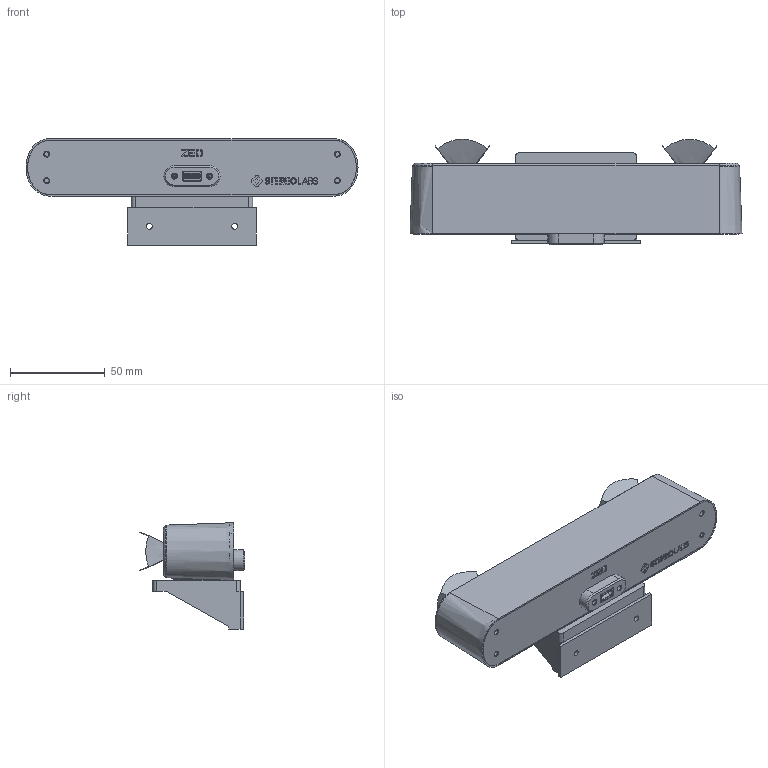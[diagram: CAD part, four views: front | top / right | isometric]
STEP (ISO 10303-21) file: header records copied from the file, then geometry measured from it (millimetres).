
FILE_DESCRIPTION(('Open CASCADE Model'),'2;1');
FILE_NAME('Open CASCADE Shape Model','2026-10-14T18:58:53',('Author'),( 'Open CASCADE'),'Open CASCADE STEP processor 7.8','Open CASCADE 7.8' ,'Unknown');
FILE_SCHEMA(('AUTOMOTIVE_DESIGN { 1 0 10303 214 1 1 1 1 }'));
Length unit declared in the file: millimetre
Products named in the file (4): ZED2i_mount_preview; PRINTED_ADAPTER; OFFICIAL_ZED2i; METAL_PLATE_APPROXIMATION
Assembly tree (3 placements, depth 2):
  ZED2i_mount_preview
    PRINTED_ADAPTER
    OFFICIAL_ZED2i
    METAL_PLATE_APPROXIMATION
Bounding box: 175.24 x 55.72 x 56.25 mm (x, y, z)
Volume: 115446.1 mm3; surface area: 95539.6 mm2
Topology: 11 solids, 17 shells, 1803 faces, 4767 edges, 3123 vertices
Faces by surface type: plane 1098, cylinder 466, bspline 172, cone 39, torus 24, sphere 4
Full cylindrical faces by diameter (mm): 1.5 x7, 1.6 x4, 1.778 x2, 2 x6, 2.2 x4, 2.5 x3, 2.529 x6, 2.58 x1, 2.8 x4, 3 x2, 3.3 x3, 3.4 x2, 3.9 x6, 3.98 x1, 4.5 x4, 4.651 x3, 5 x1, 5.116 x1, 6.182 x3, 10 x2, 12 x4, 14 x6, 14.5 x2, 18.8 x2
Entity records: 132675 total; most frequent: CARTESIAN_POINT 39681, DIRECTION 16435, LINE 10577, VECTOR 10577, ORIENTED_EDGE 9504, PCURVE 9504, DEFINITIONAL_REPRESENTATION 9504, EDGE_CURVE 4761
